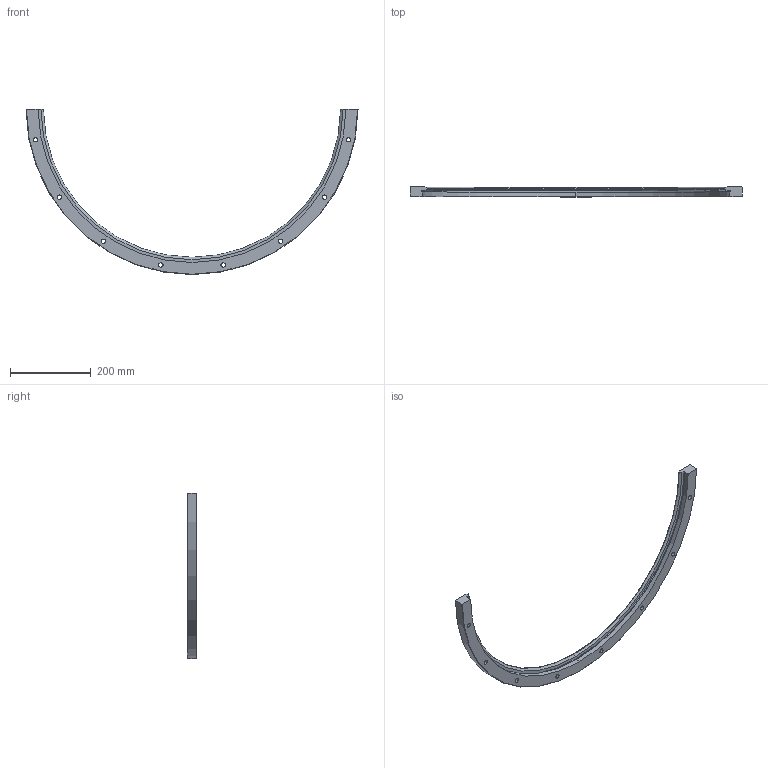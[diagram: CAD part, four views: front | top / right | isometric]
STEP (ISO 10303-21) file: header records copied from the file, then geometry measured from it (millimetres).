
FILE_DESCRIPTION(('STEP AP203'),'1');
FILE_NAME('ril_820_r180.stp','2021-08-30T06:13:48',('TraceParts'),('TraceParts S.A.'),'Spatial InterOp 3D',' ',' ');
FILE_SCHEMA(('CONFIG_CONTROL_DESIGN'));
Length unit declared in the file: millimetre
Products named in the file (1): 1
Bounding box: 819.99 x 24 x 408 mm (x, y, z)
Volume: 963111.8 mm3; surface area: 165244.3 mm2
Topology: 1 solids, 1 shells, 64 faces, 157 edges, 103 vertices
Faces by surface type: cylinder 38, plane 14, cone 8, torus 4
Entity records: 2029 total; most frequent: CARTESIAN_POINT 369, DIRECTION 367, ORIENTED_EDGE 314, AXIS2_PLACEMENT_3D 157, EDGE_CURVE 157, VERTEX_POINT 103, CIRCLE 92, EDGE_LOOP 88
